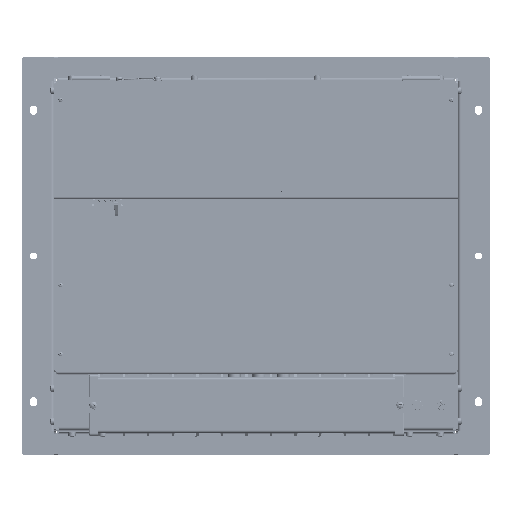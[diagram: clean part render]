
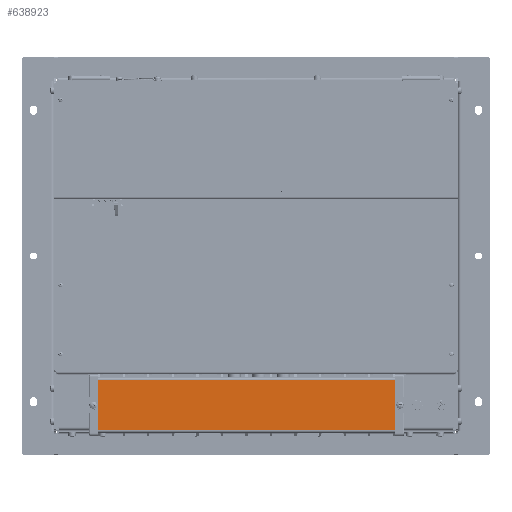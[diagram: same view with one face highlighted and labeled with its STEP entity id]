
A CAD part, top view. The second image highlights one B-rep face of the part: STEP entity #638923.
In plain terms, the highlighted planar face has unit normal (0, 0, 1).
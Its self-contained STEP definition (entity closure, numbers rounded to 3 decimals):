
#11900 = EDGE_CURVE ( 'NONE', #521896, #228015, #221805, .T. ) ;
#24283 = VECTOR ( 'NONE', #271320, 1000. ) ;
#29121 = CARTESIAN_POINT ( 'NONE',  ( 188.476, -164.719, 249.848 ) ) ;
#36936 = CARTESIAN_POINT ( 'NONE',  ( 188.476, -230.819, 249.848 ) ) ;
#71344 = CARTESIAN_POINT ( 'NONE',  ( -99.524, -164.719, 249.848 ) ) ;
#94455 = EDGE_CURVE ( 'NONE', #228015, #429454, #340680, .T. ) ;
#96768 = LINE ( 'NONE', #607046, #214622 ) ;
#157247 = ORIENTED_EDGE ( 'NONE', *, *, #403690, .F. ) ;
#212435 = ORIENTED_EDGE ( 'NONE', *, *, #617016, .T. ) ;
#214622 = VECTOR ( 'NONE', #552190, 1000. ) ;
#221805 = LINE ( 'NONE', #71344, #24283 ) ;
#228015 = VERTEX_POINT ( 'NONE', #377740 ) ;
#245199 = VERTEX_POINT ( 'NONE', #393225 ) ;
#261848 = VECTOR ( 'NONE', #528274, 1000. ) ;
#271320 = DIRECTION ( 'NONE',  ( 1., 0., 0. ) ) ;
#323781 = LINE ( 'NONE', #531200, #528190 ) ;
#329588 = DIRECTION ( 'NONE',  ( -1., 0., 0. ) ) ;
#336080 = AXIS2_PLACEMENT_3D ( 'NONE', #483381, #630657, #329588 ) ;
#340680 = LINE ( 'NONE', #29121, #261848 ) ;
#341691 = ORIENTED_EDGE ( 'NONE', *, *, #94455, .F. ) ;
#377740 = CARTESIAN_POINT ( 'NONE',  ( 188.476, -164.719, 249.848 ) ) ;
#393225 = CARTESIAN_POINT ( 'NONE',  ( -198.524, -230.819, 249.848 ) ) ;
#403690 = EDGE_CURVE ( 'NONE', #429454, #245199, #323781, .T. ) ;
#429454 = VERTEX_POINT ( 'NONE', #36936 ) ;
#468703 = EDGE_LOOP ( 'NONE', ( #157247, #341691, #612232, #212435 ) ) ;
#483381 = CARTESIAN_POINT ( 'NONE',  ( -99.524, -230.819, 249.848 ) ) ;
#521896 = VERTEX_POINT ( 'NONE', #584030 ) ;
#528190 = VECTOR ( 'NONE', #632273, 1000. ) ;
#528274 = DIRECTION ( 'NONE',  ( 0., -1., 0. ) ) ;
#531200 = CARTESIAN_POINT ( 'NONE',  ( -99.524, -230.819, 249.848 ) ) ;
#536059 = PLANE ( 'NONE',  #336080 ) ;
#552190 = DIRECTION ( 'NONE',  ( 0., -1., 0. ) ) ;
#584030 = CARTESIAN_POINT ( 'NONE',  ( -198.524, -164.719, 249.848 ) ) ;
#607046 = CARTESIAN_POINT ( 'NONE',  ( -198.524, -230.819, 249.848 ) ) ;
#612232 = ORIENTED_EDGE ( 'NONE', *, *, #11900, .F. ) ;
#617016 = EDGE_CURVE ( 'NONE', #521896, #245199, #96768, .T. ) ;
#630657 = DIRECTION ( 'NONE',  ( 0., 0., -1. ) ) ;
#632273 = DIRECTION ( 'NONE',  ( -1., 0., 0. ) ) ;
#638923 = ADVANCED_FACE ( 'NONE', ( #646854 ), #536059, .F. ) ;
#646854 = FACE_OUTER_BOUND ( 'NONE', #468703, .T. ) ;
